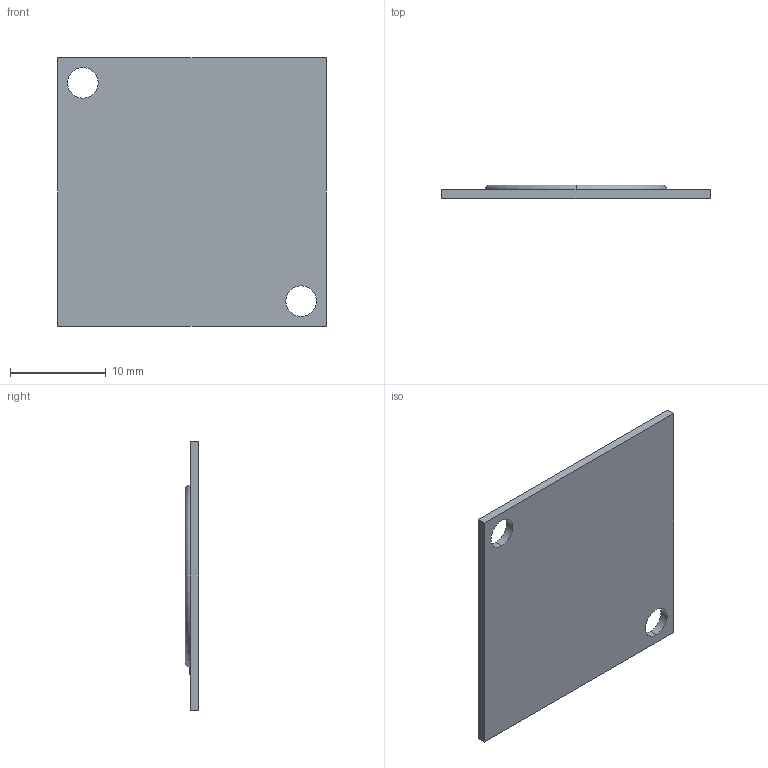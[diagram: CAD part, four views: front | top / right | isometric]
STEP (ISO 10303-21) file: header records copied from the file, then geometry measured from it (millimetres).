
FILE_DESCRIPTION((''),'2;1');
FILE_NAME('VCA1210_1-V1','2018-12-04T13:50:31',('zsavic'),(''),'CREO PARAMETRIC BY PTC INC, 2016510','CREO PARAMETRIC BY PTC INC, 2016510','');
FILE_SCHEMA(('AUTOMOTIVE_DESIGN { 1 0 10303 214 1 1 1 1 }'));
Length unit declared in the file: millimetre
Products named in the file (1): VCA1210_1-V1
Bounding box: 28 x 1.4 x 28 mm (x, y, z)
Volume: 759.8 mm3; surface area: 1690.3 mm2
Topology: 1 solids, 1 shells, 95 faces, 258 edges, 172 vertices
Faces by surface type: cylinder 47, plane 46, torus 2
Entity records: 4691 total; most frequent: CARTESIAN_POINT 583, DIRECTION 541, ORIENTED_EDGE 516, PRESENTATION_STYLE_ASSIGNMENT 354, STYLED_ITEM 259, CURVE_STYLE 258, EDGE_CURVE 258, AXIS2_PLACEMENT_3D 190
